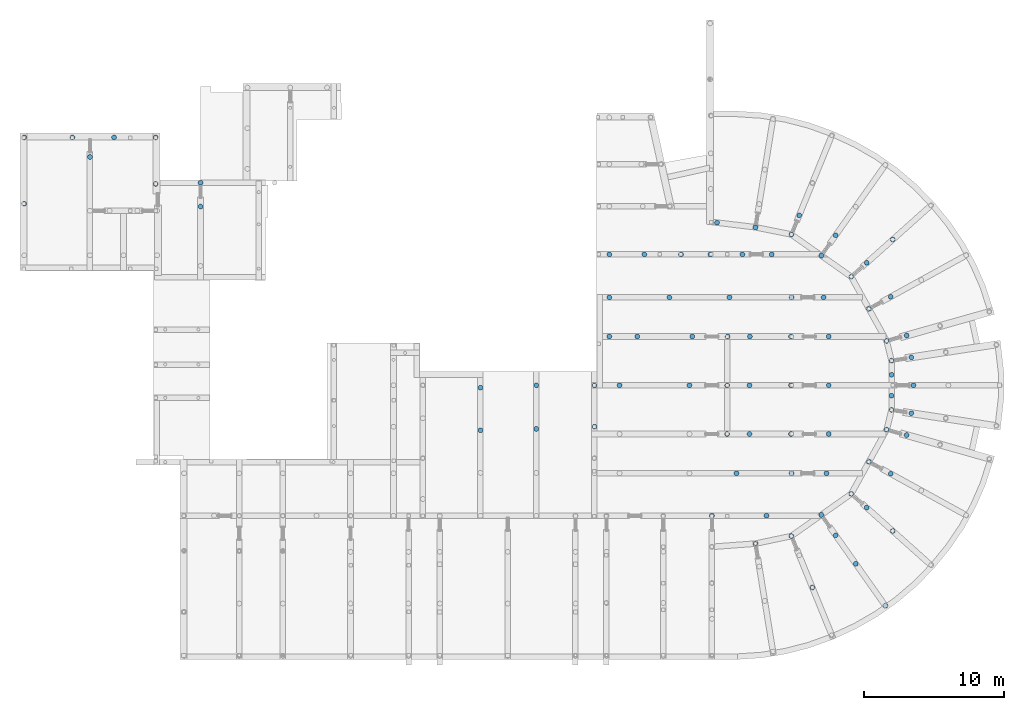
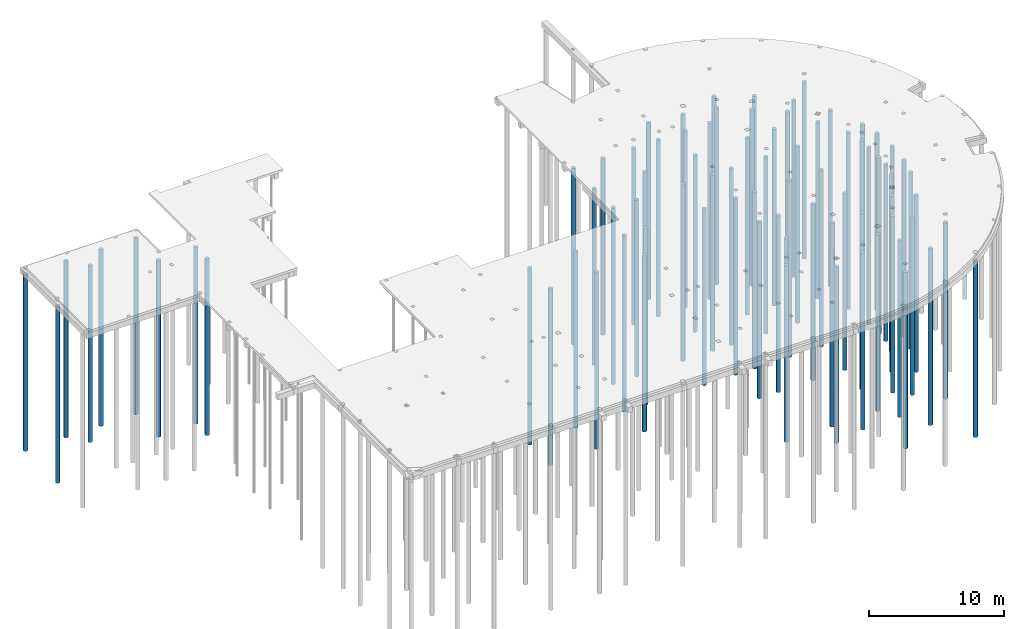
# One storey, part 2 of 22: 82 piles.
"""IFC2X3 building model written with IfcOpenShell, lengths in millimetres."""

from ifc_helpers import new_model, si_unit, frame, origin_with_axes, origin_2d_with_axis, place, context, subcontext, project, spatial, circle, extrude, clip, halfspace, material, element, save


model = new_model("IFC2X3")

# Units and contexts
model_context = context("Model", 3, precision=1e-05, world=origin_with_axes())
body_context = subcontext(model_context, "Body", "Model", "MODEL_VIEW")
ifc_project = project(units=[si_unit("LENGTHUNIT", "METRE", prefix="MILLI"), si_unit("AREAUNIT", "SQUARE_METRE"), si_unit("VOLUMEUNIT", "CUBIC_METRE"), si_unit("MASSUNIT", "GRAM", prefix="KILO"), si_unit("TIMEUNIT", "SECOND"), si_unit("PLANEANGLEUNIT", "RADIAN"), si_unit("SOLIDANGLEUNIT", "STERADIAN"), si_unit("THERMODYNAMICTEMPERATUREUNIT", "DEGREE_CELSIUS"), si_unit("LUMINOUSINTENSITYUNIT", "LUMEN")], contexts=[model_context])

# Site, building, storey
site_placement = place(None, origin_with_axes())
site = spatial("IfcSite", under=ifc_project, at=site_placement, Name="Undefined", CompositionType="ELEMENT")
building_placement = place(site_placement, origin_with_axes())
building = spatial("IfcBuilding", under=site, at=building_placement, Name="Undefined", CompositionType="ELEMENT")
storey_placement = place(building_placement, origin_with_axes())
storey = spatial("IfcBuildingStorey", under=building, at=storey_placement, Name="Undefined", CompositionType="ELEMENT", Elevation=0.0)

# Piles
ifc_material = material(Name="CONCRETE/C28/35(prefab)")
for number, where, z_axis, x_axis in (
    (1, (49243.3203679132, 28991.2417781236, -770.0), (-0.999999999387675, -3.49950000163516e-05, 0.0), (0.0, 0.0, -1.0)),
    (2, (12740.813577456, 34117.0884421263, -770.0), (-0.999999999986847, -5.12899999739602e-06, 0.0), (0.0, 0.0, -1.0)),
    (3, (52049.9999997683, 19616.0599047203, -770.0), (-1.0, 0.0, 0.0), (0.0, 0.0, -1.0)),
    (4, (44013.0004882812, 23108.6258148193, -770.0), (-1.0, 0.0, 0.0), (0.0, 0.0, -1.0)),
    (5, (52080.7576618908, 23108.6585527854, -770.0), (-1.0, 0.0, 0.0), (0.0, 0.0, -1.0)),
    (6, (52049.9999997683, 16127.9599047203, -770.0), (-1.0, 0.0, 0.0), (0.0, 0.0, -1.0)),
    (7, (108.638648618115, 37365.9862952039, -770.0), (-1.13299999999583e-06, 0.999999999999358, 0.0), (0.0, 0.0, -1.0)),
    (8, (108.644027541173, 32618.4865221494, -770.0), (-1.13299999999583e-06, 0.999999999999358, 0.0), (0.0, 0.0, -1.0)),
    (9, (3564.0258880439, 37365.9859553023, -770.0), (-1.0, 0.0, 0.0), (0.0, 0.0, -1.0)),
    (10, (9525.00076344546, 37365.9859553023, -770.0), (0.0, 1.0, 0.0), (0.0, 0.0, -1.0)),
    (11, (6544.5258880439, 37365.9859553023, -770.0), (-1.0, 0.0, 0.0), (0.0, 0.0, -1.0)),
    (12, (9525.00076344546, 34035.2370917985, -770.0), (0.0, 1.0, 0.0), (0.0, 0.0, -1.0)),
    (13, (4816.91142969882, 35965.9858703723, -770.0), (-1.13299999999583e-06, 0.999999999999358, 0.0), (0.0, 0.0, -1.0)),
):
    element("IfcPile", number, at=place(storey_placement, frame(where, z_axis=z_axis, x_axis=x_axis)), inside=storey, material=ifc_material, Name="FUNDERINGSPAAL", ConstructionType="NOTDEFINED", PredefinedType="NOTDEFINED", context=body_context, shape_type="Clipping", body=[
        clip(extrude(circle(Radius=175.0, at=origin_2d_with_axis()), frame((15900.0, 0.0, 0.0), z_axis=(-1.0, 0.0, 0.0), x_axis=(0.0, -1.0, 0.0)), (0.0, 0.0, 1.0), 15900.0), halfspace(frame((0.0, 175.0000000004, -175.000000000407), z_axis=(-1.0, 0.0, 0.0), x_axis=(0.0, 0.0, 1.0)), False)),
    ])
pile_placement = place(storey_placement, frame((12736.0932437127, 32417.0686841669, -770.0), z_axis=(0.0, 1.0, 0.0), x_axis=(0.0, 0.0, -1.0)))
element("IfcPile", 14, at=pile_placement, inside=storey, material=ifc_material, Name="FUNDERINGSPAAL", ConstructionType="NOTDEFINED", PredefinedType="NOTDEFINED", context=body_context, shape_type="Clipping", body=[
    clip(extrude(circle(Radius=175.0, at=origin_2d_with_axis()), frame((15900.0, 0.0, 0.0), z_axis=(-1.0, 0.0, 0.0), x_axis=(0.0, -1.0, 0.0)), (0.0, 0.0, 1.0), 15900.0), halfspace(frame((0.0, 175.000012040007, -245.000000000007), z_axis=(-1.0, 0.0, 0.0), x_axis=(0.0, 0.0, 1.0)), False)),
])
for number, where, z_axis, x_axis in (
    (15, (61781.6678492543, 3825.93771724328, -770.000000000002), (0.817057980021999, 0.576555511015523, 0.0), (0.0, 0.0, -1.0)),
    (16, (56553.6016494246, 5133.92010961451, -770.0), (-0.377638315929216, 0.925953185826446, 0.0), (0.0, 0.0, -1.0)),
    (17, (62310.8734190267, 9182.66862557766, -770.0), (-0.745289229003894, 0.666741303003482, 0.0), (0.0, 0.0, -1.0)),
    (18, (62312.6377845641, 30050.6694180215, -770.0), (-0.745323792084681, -0.666702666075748, 0.0), (0.0, 0.0, -1.0)),
    (19, (52477.6555583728, 30933.2063590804, -770.0), (-0.980400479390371, 0.197014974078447, 0.0), (0.0, 0.0, -1.0)),
    (20, (55050.3809888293, 30415.436421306, -770.0), (-0.817079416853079, 0.576525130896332, 0.0), (0.0, 0.0, -1.0)),
    (21, (57193.329818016, 28903.3877406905, -770.000000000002), (-0.817079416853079, 0.576525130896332, 0.0), (0.0, 0.0, -1.0)),
    (22, (59336.9968296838, 27390.4439621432, -769.999999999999), (-0.48250099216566, 0.875895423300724, 0.0), (0.0, 0.0, -1.0)),
    (23, (60603.0561000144, 25092.1367301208, -769.999999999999), (-0.48250099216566, 0.875895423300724, 0.0), (0.0, 0.0, -1.0)),
    (24, (61868.7391299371, 22794.5124961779, -770.0), (-0.48250099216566, 0.875895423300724, 0.0), (0.0, 0.0, -1.0)),
    (25, (62224.4711258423, 21379.4197380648, -769.999999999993), (-1.0138999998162e-05, 0.9999999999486, 0.0), (0.0, 0.0, -1.0)),
    (26, (62224.5068859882, 17852.5886583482, -770.000000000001), (-1.0138999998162e-05, 0.9999999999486, 0.0), (0.0, 0.0, -1.0)),
    (27, (61869.7626116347, 16437.7356184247, -769.999999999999), (0.482786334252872, 0.875738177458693, 0.0), (0.0, 0.0, -1.0)),
    (28, (60602.8104388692, 14139.5794627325, -770.000000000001), (0.482786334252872, 0.875738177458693, 0.0), (0.0, 0.0, -1.0)),
    (29, (59336.5828017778, 11842.8559459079, -770.000000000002), (0.817280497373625, 0.57624004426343, 0.0), (0.0, 0.0, -1.0)),
    (30, (57193.5053775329, 10331.8361262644, -770.0), (0.817280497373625, 0.57624004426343, 0.0), (0.0, 0.0, -1.0)),
    (31, (55049.6854045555, 8820.29275770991, -770.0), (0.817280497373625, 0.57624004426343, 0.0), (0.0, 0.0, -1.0)),
    (32, (52480.9204033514, 8276.96904665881, -770.0), (0.997283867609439, 0.0736538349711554, 0.0), (0.0, 0.0, -1.0)),
    (33, (62224.4814007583, 20366.0599682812, -770.000000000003), (-1.0138999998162e-05, 0.9999999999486, 0.0), (0.0, 0.0, -1.0)),
    (34, (62224.4966099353, 18866.0605488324, -770.000000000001), (-1.0138999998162e-05, 0.9999999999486, 0.0), (0.0, 0.0, -1.0)),
    (35, (55611.8087190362, 31788.3157375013, -770.0), (-0.377505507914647, -0.92600733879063, 0.0), (0.0, 0.0, -1.0)),
    (36, (58222.5302374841, 30359.6992410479, -770.0), (-0.576253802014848, -0.817270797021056, 0.0), (0.0, 0.0, -1.0)),
    (37, (60449.3202550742, 28383.9055526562, -770.0), (-0.745323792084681, -0.666702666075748, 0.0), (0.0, 0.0, -1.0)),
    (38, (62165.569272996, 25951.5927589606, -770.0), (-0.876201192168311, -0.481945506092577, 0.0), (0.0, 0.0, -1.0)),
    (39, (63300.4723009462, 23180.719138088, -770.0), (0.962245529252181, 0.27218291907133, 0.0), (0.0, 0.0, -1.0)),
    (40, (63639.2067664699, 21620.1295464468, -770.0), (-0.988598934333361, -0.150572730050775, 0.0), (0.0, 0.0, -1.0)),
    (41, (63792.9965446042, 19616.0599047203, -770.0), (-1.0, 0.0, 0.0), (0.0, 0.0, -1.0)),
    (42, (63640.15866885, 17617.2196388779, -770.0), (-0.988598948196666, 0.150572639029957, 0.0), (0.0, 0.0, -1.0)),
    (43, (63300.493151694, 16051.4749640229, -770.0), (0.962245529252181, -0.272182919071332, 0.0), (0.0, 0.0, -1.0)),
    (44, (62165.4250551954, 13280.2654042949, -770.0), (-0.876224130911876, 0.481903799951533, 0.0), (0.0, 0.0, -1.0)),
    (45, (60445.1167283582, 10851.7884767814, -770.0), (-0.745289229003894, 0.666741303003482, 0.0), (0.0, 0.0, -1.0)),
    (46, (58222.2448404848, 8872.21989006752, -770.0), (-0.576300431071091, 0.817237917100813, 0.0), (0.0, 0.0, -1.0)),
    (47, (59662.7782774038, 6829.43372849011, -770.0), (-0.576300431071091, 0.817237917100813, 0.0), (0.0, 0.0, -1.0)),
    (48, (49361.6405530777, 10273.6240965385, -770.0), (1.0, 0.0, 0.0), (0.0, 0.0, -1.0)),
    (49, (53261.6615171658, 10273.6240965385, -770.0), (1.0, 0.0, 0.0), (0.0, 0.0, -1.0)),
    (50, (32780.7005813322, 16393.6240965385, -770.0), (0.0, 1.0, 0.0), (0.0, 0.0, -1.0)),
    (51, (36780.7000625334, 16493.6240965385, -770.0), (0.0, 1.0, 0.0), (0.0, 0.0, -1.0)),
    (52, (32780.7005813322, 19443.8240965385, -770.0), (0.0, 1.0, 0.0), (0.0, 0.0, -1.0)),
    (53, (36780.7000625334, 19613.8240965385, -770.0), (0.0, 1.0, 0.0), (0.0, 0.0, -1.0)),
    (54, (40940.6662672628, 16648.3922008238, -770.0), (0.0, 1.0, 0.0), (0.0, 0.0, -1.0)),
    (55, (40940.6661930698, 19616.1095999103, -770.0), (0.0, 1.0, 0.0), (0.0, 0.0, -1.0)),
    (56, (42013.0004882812, 23108.6258148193, -770.0), (-1.0, 0.0, 0.0), (0.0, 0.0, -1.0)),
    (57, (42013.0004882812, 25915.6991949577, -770.0), (-1.0, 0.0, 0.0), (0.0, 0.0, -1.0)),
    (58, (42012.8947844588, 28990.988194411, -770.0), (-0.999999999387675, -3.49950000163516e-05, 0.0), (0.0, 0.0, -1.0)),
    (59, (51543.3203657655, 28991.3157741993, -770.0), (-0.999999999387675, -3.49950000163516e-05, 0.0), (0.0, 0.0, -1.0)),
    (60, (55068.5916201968, 25915.6991949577, -770.0), (-1.0, 0.0, 0.0), (0.0, 0.0, -1.0)),
    (61, (55024.5288919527, 23108.6585527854, -770.0), (-1.0, 0.0, 0.0), (0.0, 0.0, -1.0)),
    (62, (55024.521233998, 19616.0599047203, -770.0), (-1.0, 0.0, 0.0), (0.0, 0.0, -1.0)),
    (63, (55024.4916201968, 16127.9599047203, -770.0), (-1.0, 0.0, 0.0), (0.0, 0.0, -1.0)),
    (64, (55063.7916201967, 13316.4203283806, -770.0), (-1.0, 0.0, 0.0), (0.0, 0.0, -1.0)),
    (65, (50449.9999997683, 16127.9599047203, -770.0), (-1.0, 0.0, 0.0), (0.0, 0.0, -1.0)),
    (66, (50449.9999997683, 19616.0597289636, -769.999999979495), (0.0, 1.0, 0.0), (0.0, 0.0, -1.0)),
    (67, (50480.7576618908, 23108.6585527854, -770.0), (-1.0, 0.0, 0.0), (0.0, 0.0, -1.0)),
    (68, (47949.9999997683, 23108.6258148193, -770.0), (-1.0, 0.0, 0.0), (0.0, 0.0, -1.0)),
    (69, (47749.9999997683, 19616.0599047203, -770.0), (-1.0, 0.0, 0.0), (0.0, 0.0, -1.0)),
    (70, (57564.3937151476, 13316.4203283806, -770.0), (-1.0, 0.0, 0.0), (0.0, 0.0, -1.0)),
    (71, (57724.4937151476, 16127.9599047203, -770.0), (-1.0, 0.0, 0.0), (0.0, 0.0, -1.0)),
    (72, (57724.4937151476, 19616.0599047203, -770.0), (-1.0, 0.0, 0.0), (0.0, 0.0, -1.0)),
    (73, (57724.4937151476, 23108.6258148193, -770.0), (-1.0, 0.0, 0.0), (0.0, 0.0, -1.0)),
    (74, (57359.5937151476, 25915.6991949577, -770.0), (-1.0, 0.0, 0.0), (0.0, 0.0, -1.0)),
    (75, (53643.2796681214, 28991.2799851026, -770.0), (-0.99999999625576, 8.65360000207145e-05, 0.0), (0.0, 0.0, -1.0)),
    (76, (46313.0004882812, 25915.6991949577, -770.0), (-1.0, 0.0, 0.0), (0.0, 0.0, -1.0)),
    (77, (50613.0004882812, 25915.6991949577, -770.0), (-1.0, 0.0, 0.0), (0.0, 0.0, -1.0)),
    (78, (47143.6715138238, 28991.1683009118, -770.0), (-0.999999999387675, -3.49950000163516e-05, 0.0), (0.0, 0.0, -1.0)),
    (79, (44523.1797032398, 28991.0765968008, -770.0), (-0.999999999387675, -3.49950000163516e-05, 0.0), (0.0, 0.0, -1.0)),
    (80, (49726.603314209, 31265.9335549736, -770.0), (0.0, 1.0, 0.0), (0.0, 0.0, -1.0)),
    (81, (42749.9999997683, 19616.0599047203, -770.0), (-1.0, 0.0, 0.0), (0.0, 0.0, -1.0)),
    (82, (51113.7916201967, 13316.4203283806, -770.0), (-1.0, 0.0, 0.0), (0.0, 0.0, -1.0)),
):
    element("IfcPile", number, at=place(storey_placement, frame(where, z_axis=z_axis, x_axis=x_axis)), inside=storey, material=ifc_material, Name="FUNDERINGSPAAL", ConstructionType="NOTDEFINED", PredefinedType="NOTDEFINED", context=body_context, shape_type="Clipping", body=[
        clip(extrude(circle(Radius=175.0, at=origin_2d_with_axis()), frame((15900.0, 0.0, 0.0), z_axis=(-1.0, 0.0, 0.0), x_axis=(0.0, -1.0, 0.0)), (0.0, 0.0, 1.0), 15900.0), halfspace(frame((0.0, 175.0000000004, -175.000000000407), z_axis=(-1.0, 0.0, 0.0), x_axis=(0.0, 0.0, 1.0)), False)),
    ])

save(model, "model.ifc")
